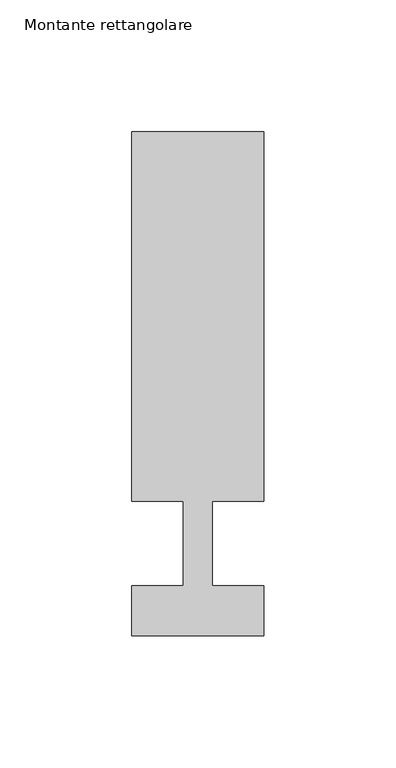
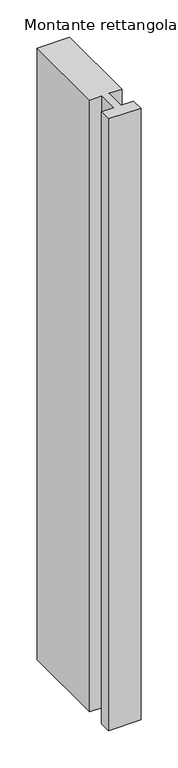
"""IFC4 building model written with IfcOpenShell, lengths in millimetres: member geometry, Montante rettangolare : Aluk_SL50_Traverso K744_vetro 32."""

from ifc_helpers import new_model, si_unit, frame, origin, place, context, project, spatial, polyline, outline, extrude, source, transform, mapped, element, save


def montante_rettangolare_2f771650(model_context):
    return source(origin(), model_context, "Body", "SweptSolid", [
        extrude(outline(polyline([(25.0694593, 156.0060769), (25.0694593, 15.9966791), (5.5694593, 15.9966791), (5.5694593, -15.9991081), (25.0568811, -15.9991081), (25.0568811, -34.9962149), (-24.9572318, -34.9962149), (-24.9572318, -15.9991081), (-5.4305407, -15.9991081), (-5.4305407, 15.9966791), (-24.9305407, 15.9966791), (-24.9305407, 156.0060769), (25.0694593, 156.0060769)])), frame((0.0, 0.0, -999.5992581), z_axis=(0.0, 0.0, 1.0), x_axis=(1.0, 0.0, 0.0)), (0.0, 0.0, 1.0), 999.5992581),
    ])


if __name__ == "__main__":
    model = new_model("IFC4")
    model_context = context("Model", 3, world=origin())
    ifc_project = project(units=[si_unit("LENGTHUNIT", "METRE", prefix="MILLI")], contexts=[model_context])
    site = spatial("IfcSite", under=ifc_project)
    building = spatial("IfcBuilding", under=site)
    placement = place(None, origin())
    montante_rettangolare_shape = montante_rettangolare_2f771650(model_context)
    element("IfcMember", 1, ObjectType="Montante rettangolare : Aluk_SL50_Traverso K744_vetro 32", at=placement, inside=building, context=model_context, shape_type="MappedRepresentation", body=[
        mapped(montante_rettangolare_shape, transform((0.0, 0.0, 0.0), x_axis=(1.0, 0.0, 0.0), y_axis=(0.0, 1.0, 0.0), z_axis=(0.0, 0.0, 1.0))),
    ])
    save(model, "model.ifc")
